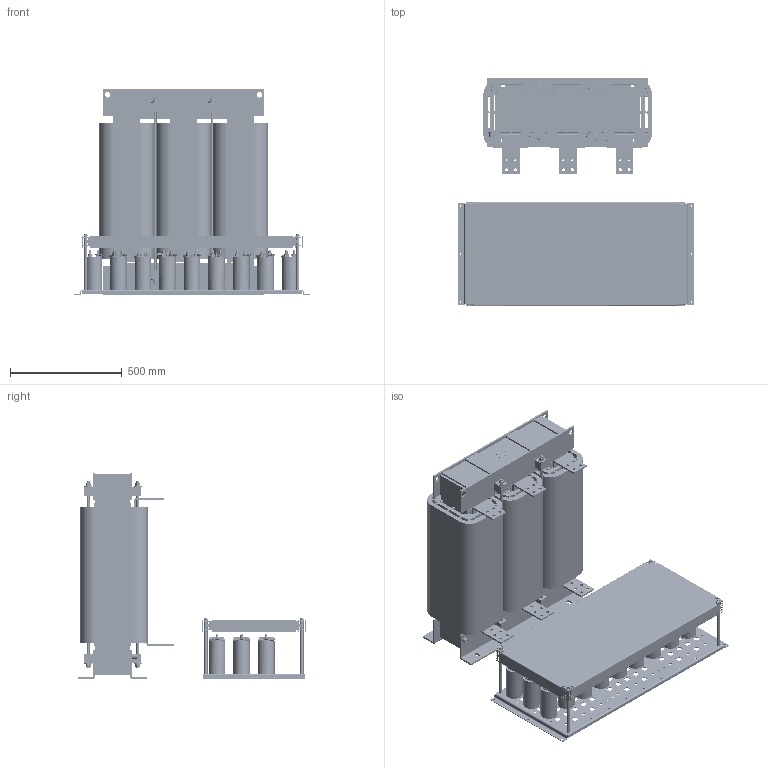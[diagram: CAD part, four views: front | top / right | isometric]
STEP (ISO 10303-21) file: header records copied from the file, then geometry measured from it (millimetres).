
FILE_DESCRIPTION(/* description */ ('raw material description','CAx-IF Rec.Pracs.---Representation and Presentation of Product Manufacturing Information (PMI)---3.8---2014-02-18'),/* implementation_level */ '2;1');
FILE_NAME(/* name */ 'C:\Users\Oliver.Volic\Desktop\FN5040HV-940-99.stp',/* time_stamp */ '2020-02-19T11:07:05+01:00',/* author */ ('Oliver.Volic'),/* organization */ ('Schaffner EMV AG'),/* preprocessor_version */ 'ST-DEVELOPER v16.5',/* originating_system */ 'Autodesk Inventor 2017',/* authorisation */ '');
FILE_SCHEMA (('AP242_MANAGED_MODEL_BASED_3D_ENGINEERING_MIM_LF { 1 0 10303 442 1 1 4 }'));
Products named in the file (1): FN5040HV-940-99
Bounding box: 1055.07 x 1017.65 x 921 mm (x, y, z)
Volume: 156009666 mm3; surface area: 13503815.3 mm2
Topology: 40 solids, 123 shells, 8520 faces, 22406 edges, 14561 vertices
Faces by surface type: plane 4327, cylinder 2332, bspline 1086, torus 405, cone 370
Full cylindrical faces by diameter (mm): 6 x1, 7.665 x8, 8 x11, 8.5 x200, 9 x44, 10 x100, 10.5 x56, 12 x207, 12.611 x4, 13 x43, 14 x31, 15 x4, 18 x4, 22 x1, 24 x8, 25 x73, 35 x8, 75 x27
Entity records: 293327 total; most frequent: CARTESIAN_POINT 85046, ORIENTED_EDGE 42142, DIRECTION 37878, EDGE_CURVE 21054, VERTEX_POINT 14281, AXIS2_PLACEMENT_3D 13068, LINE 11742, VECTOR 11742
